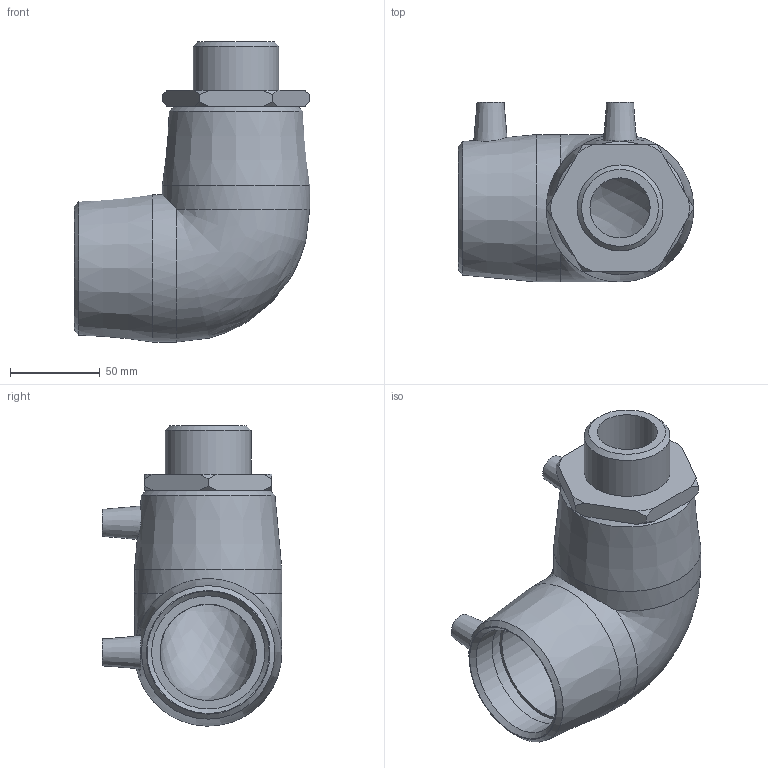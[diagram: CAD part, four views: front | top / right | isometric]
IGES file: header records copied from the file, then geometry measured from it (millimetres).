
Global section: file name: 492504063015.ipt; native system: Autodesk Inventor 2015; preprocessor: unknown; author: KIM; date: 20200202.122352; units: millimetre
Bounding box: 131 x 100 x 167 mm (x, y, z)
Volume: 491708.3 mm3; surface area: 95460.9 mm2
Topology: 1 solids, 2 shells, 59 faces, 143 edges, 96 vertices
Faces by surface type: plane 22, cone 19, revolution 10, cylinder 7, bspline 1
Full cylindrical faces by diameter (mm): 4 x2, 47.803 x1, 63 x2, 82 x2
